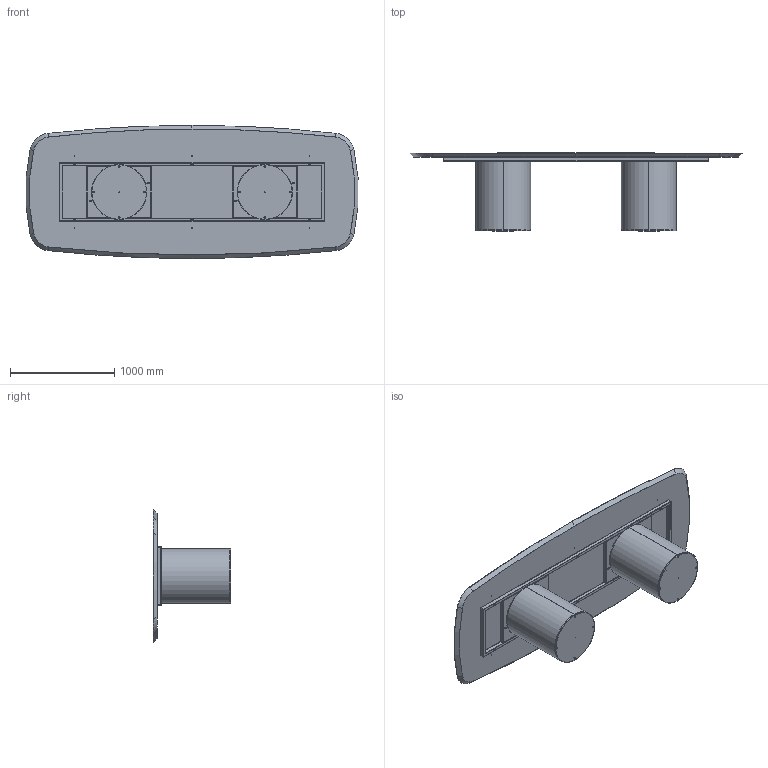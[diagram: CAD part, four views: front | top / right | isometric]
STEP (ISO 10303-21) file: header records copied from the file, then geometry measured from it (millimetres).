
FILE_DESCRIPTION (( 'STEP AP203' ), '1' );
FILE_NAME ('CI45W.STEP', '2024-08-08T07:13:20', ( '' ), ( '' ), 'SwSTEP 2.0', 'SolidWorks 2022', '' );
FILE_SCHEMA (( 'CONFIG_CONTROL_DESIGN' ));
Length unit declared in the file: millimetre
Products named in the file (12): TTAV03_01-06-RING TUBO TELAIO UNIVERSALE X TAVOLI 300-340cm; TTAV03-06-TELAIO UNIVERSALE X TAVOLI 300-340cm; CI45W; C2B000000_01-00-struttura cilindro D.530mm; C2B000000-03-CILINDRO BASE D.530mm_Normale; C2B000000_02-01-ZAVORRA IN FERRO D.530mm; COLLO TELAIO UNIVERSALE TTAV03 CON FERRAMENTA_MTG TOP LEGNO-MARMO-KING; rondella M8_8X24; M8xXXmm_hex_M8X20mm; TTAV03_02-06-VASSOIO IRRIGIDIMENTO TELAIO UNIVERSALE RETTANGOLARE; W4XCMXX-00-Piani Sagomati legno_3200 x 1280; M8xXXmm_M8x55mm
Assembly tree (26 placements, depth 4):
  CI45W
    C2B000000-03-CILINDRO BASE D.530mm_Normale  x2
      C2B000000_01-00-struttura cilindro D.530mm
      C2B000000_02-01-ZAVORRA IN FERRO D.530mm
      M8xXXmm_hex_M8X20mm
    COLLO TELAIO UNIVERSALE TTAV03 CON FERRAMENTA_MTG TOP LEGNO-MARMO-KING
      TTAV03-06-TELAIO UNIVERSALE X TAVOLI 300-340cm
        TTAV03_01-06-RING TUBO TELAIO UNIVERSALE X TAVOLI 300-340cm
        TTAV03_02-06-VASSOIO IRRIGIDIMENTO TELAIO UNIVERSALE RETTANGOLARE  x2
      rondella M8_8X24  x6
      M8xXXmm_M8x55mm  x6
    W4XCMXX-00-Piani Sagomati legno_3200 x 1280
Bounding box: 3190.14 x 748 x 1280 mm (x, y, z)
Volume: 154299920.5 mm3; surface area: 16828361.4 mm2
Topology: 34 solids, 34 shells, 1227 faces, 2804 edges, 1605 vertices
Faces by surface type: plane 506, cylinder 393, cone 195, torus 97, sphere 36
Entity records: 16515 total; most frequent: DIRECTION 2771, CARTESIAN_POINT 2553, ORIENTED_EDGE 2392, EDGE_CURVE 1196, AXIS2_PLACEMENT_3D 1058, VERTEX_POINT 722, LINE 655, VECTOR 655
